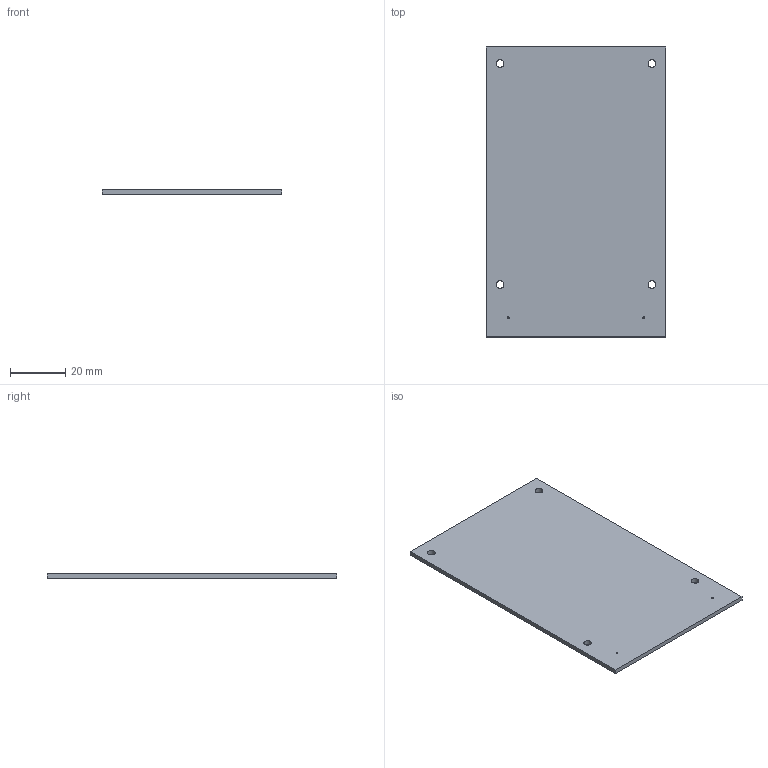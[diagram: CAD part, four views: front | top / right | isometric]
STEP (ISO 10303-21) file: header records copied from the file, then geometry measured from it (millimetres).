
FILE_DESCRIPTION(('Open CASCADE Model'),'2;1');
FILE_NAME('Open CASCADE Shape Model','2026-09-29T17:57:22',('Author'),( 'Open CASCADE'),'Open CASCADE STEP processor 7.9','Open CASCADE 7.9' ,'Unknown');
FILE_SCHEMA(('AUTOMOTIVE_DESIGN { 1 0 10303 214 1 1 1 1 }'));
Length unit declared in the file: millimetre
Products named in the file (1): Open CASCADE STEP translator 7.9 2
Bounding box: 65 x 105 x 1.6 mm (x, y, z)
Volume: 10879.7 mm3; surface area: 14205.9 mm2
Topology: 1 solids, 1 shells, 12 faces, 30 edges, 20 vertices
Faces by surface type: plane 6, cylinder 6
Full cylindrical faces by diameter (mm): 0.6 x2, 2.8 x4
Entity records: 790 total; most frequent: DIRECTION 128, CARTESIAN_POINT 123, LINE 66, VECTOR 66, ORIENTED_EDGE 60, PCURVE 60, DEFINITIONAL_REPRESENTATION 60, EDGE_CURVE 30
